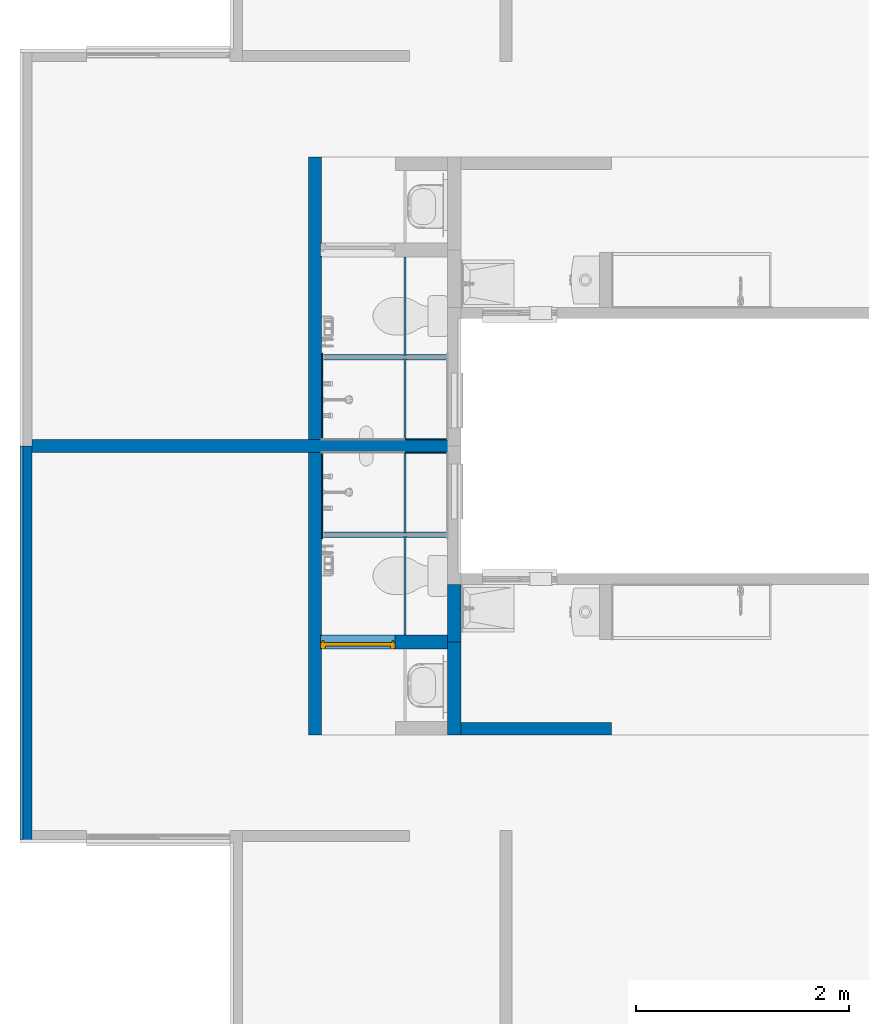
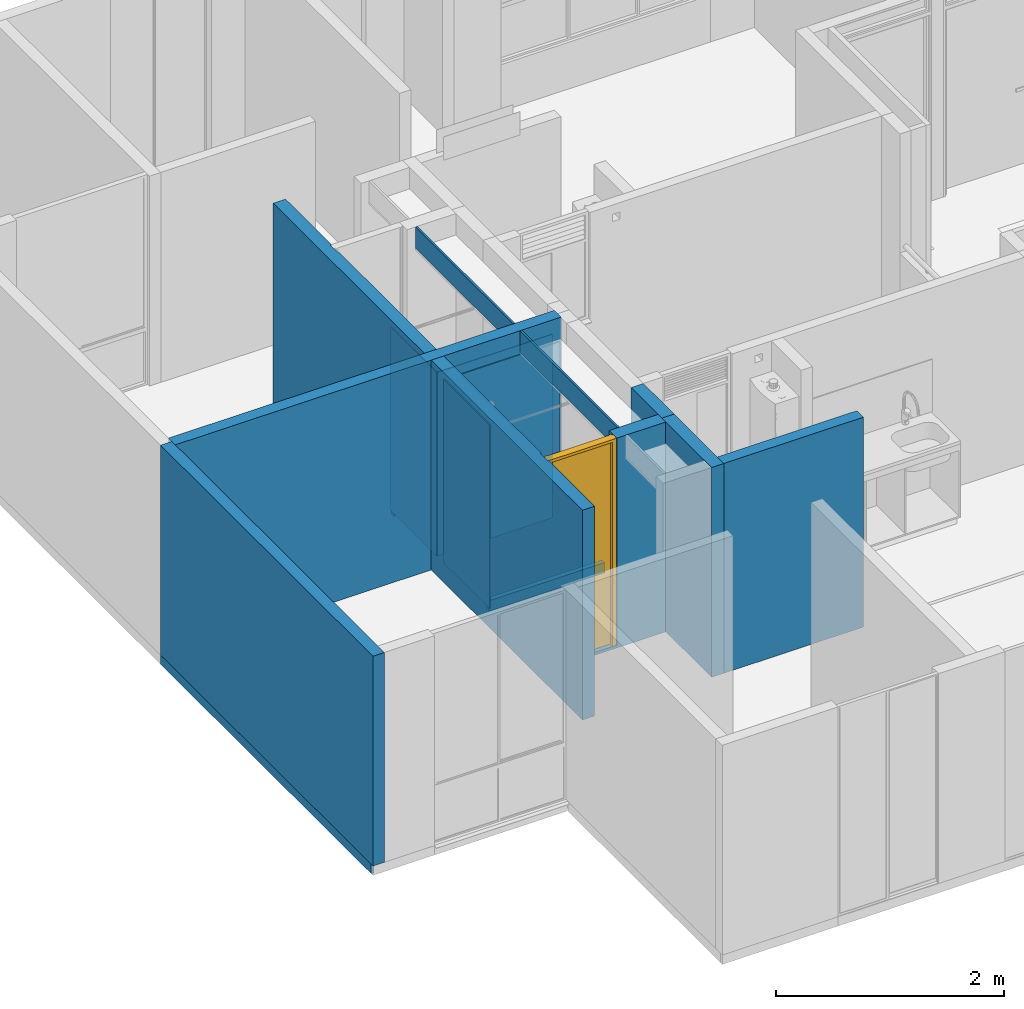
# One storey, part 7 of 48: 17 walls, 1 door, 3 openings.
"""IFC4 building model written with IfcOpenShell, lengths in metres."""

import ifcopenshell
import ifcopenshell.guid

model = None  # the IFC model being written
_history = None  # IfcOwnerHistory: only IFC2X3 demands one
_inside = {}  # id of a spatial element -> (the spatial element, [elements in it])
_under = {}  # id of a project, library or spatial element -> (it, [spatial elements below it])
_declared = {}  # id of a project -> (the project, [libraries it declares])
_typed = {}  # id of a type object -> (the type object, [elements of that type])
_made_of = {}  # id of a material, layer set ... -> (it, [elements and type objects made of it])


def new_model(schema):
    """Start an empty IFC model of exactly this schema.

    Asked for "IFC4X3", IfcOpenShell would pick the latest addendum, in which some entities
    have other attributes; the version numbers below select the first issue.
    IFC2X3 requires an IfcOwnerHistory on every rooted entity: one is made here for all.
    """
    global model, _history
    if schema == "IFC4X3":
        model = ifcopenshell.file(schema_version=(4, 3, 0, 0))
    else:
        model = ifcopenshell.file(schema=schema)
    _inside.clear()
    _under.clear()
    _declared.clear()
    _typed.clear()
    _made_of.clear()
    _history = None
    if model.schema == "IFC2X3":
        org = make("IfcOrganization", Name="unknown")
        user = make(
            "IfcPersonAndOrganization",
            ThePerson=make("IfcPerson", FamilyName="unknown"),
            TheOrganization=org,
        )
        app = make(
            "IfcApplication",
            ApplicationDeveloper=org,
            Version="unknown",
            ApplicationFullName="unknown",
            ApplicationIdentifier="unknown",
        )
        _history = make(
            "IfcOwnerHistory",
            OwningUser=user,
            OwningApplication=app,
            ChangeAction="ADDED",
            CreationDate=0,
        )
    return model


def make(cls, **values):
    """One entity of the class cls with the attributes given. An attribute that is None is left unset."""
    return model.create_entity(
        cls, **{name: value for name, value in values.items() if value is not None}
    )


def entity(cls, *values):
    """Any entity or typed value of the class cls, its attributes in the order of the schema. None: left unset."""
    e = model.create_entity(cls)
    for i, value in enumerate(values):
        if value is not None:
            e[i] = value
    return e


def rooted(cls, **values):
    """An entity with a GlobalId (a new one), such as an element, a storey or a relation."""
    return make(cls, GlobalId=ifcopenshell.guid.new(), OwnerHistory=_history, **values)


def si_unit(unit_type, name, prefix=None):
    """IfcSIUnit, for example si_unit("LENGTHUNIT", "METRE", prefix="MILLI")."""
    return make("IfcSIUnit", UnitType=unit_type, Prefix=prefix, Name=name)


def converted_unit(unit_type, name, factor, base, dimensions=None, offset=None):
    """IfcConversionBasedUnit, such as the inch: factor (a typed value) times the base unit."""
    return make(
        "IfcConversionBasedUnit"
        if offset is None
        else "IfcConversionBasedUnitWithOffset",
        ConversionOffset=offset,
        Dimensions=None
        if dimensions is None
        else entity("IfcDimensionalExponents", *dimensions),
        UnitType=unit_type,
        Name=name,
        ConversionFactor=make(
            "IfcMeasureWithUnit", ValueComponent=factor, UnitComponent=base
        ),
    )


def derived_unit(unit_type, elements):
    """IfcDerivedUnit: a product of units, each with its exponent."""
    return make(
        "IfcDerivedUnit",
        Elements=[
            make("IfcDerivedUnitElement", Unit=unit, Exponent=power)
            for unit, power in elements
        ],
        UnitType=unit_type,
    )


def assignment(units):
    """IfcUnitAssignment: the units of a project."""
    return None if units is None else make("IfcUnitAssignment", Units=units)


def point(xyz):
    """IfcCartesianPoint."""
    return None if xyz is None else make("IfcCartesianPoint", Coordinates=xyz)


def direction(xyz):
    """IfcDirection."""
    return None if xyz is None else make("IfcDirection", DirectionRatios=xyz)


def frame(location, z_axis=None, x_axis=None):
    """IfcAxis2Placement3D, a coordinate frame: its origin and axes. An axis left out is left unset."""
    return make(
        "IfcAxis2Placement3D",
        Location=point(location),
        Axis=direction(z_axis),
        RefDirection=direction(x_axis),
    )


def origin():
    """The frame at (0, 0, 0) with its axes left unset."""
    return frame((0.0, 0.0, 0.0))


def place(relative_to, where):
    """IfcLocalPlacement: puts the frame where relative to a parent placement (None: the world)."""
    return make(
        "IfcLocalPlacement", PlacementRelTo=relative_to, RelativePlacement=where
    )


def context(
    kind, dimensions, precision=None, world=None, true_north=None, identifier=None
):
    """IfcGeometricRepresentationContext, for example the 3D "Model" context."""
    return make(
        "IfcGeometricRepresentationContext",
        ContextIdentifier=identifier,
        ContextType=kind,
        CoordinateSpaceDimension=dimensions,
        Precision=precision,
        WorldCoordinateSystem=world,
        TrueNorth=true_north,
    )


def subcontext(parent, identifier, kind, view, scale=None):
    """IfcGeometricRepresentationSubContext, for example "Body" below "Model"."""
    return make(
        "IfcGeometricRepresentationSubContext",
        ContextIdentifier=identifier,
        ContextType=kind,
        ParentContext=parent,
        TargetScale=scale,
        TargetView=view,
    )


def project(units=None, contexts=None):
    """IfcProject with its units and contexts."""
    return rooted(
        "IfcProject",
        Name="project",
        RepresentationContexts=contexts,
        UnitsInContext=assignment(units),
    )


def spatial(cls, under=None, at=None, **own):
    """A site, building, storey or space (cls), placed at a placement, below another one or the project."""
    s = rooted(cls, ObjectPlacement=at, **own)
    if under is not None:
        _under.setdefault(under.id(), (under, []))[1].append(s)
    return s


def point_list(points):
    """IfcCartesianPointList2D or 3D."""
    cls = (
        "IfcCartesianPointList2D" if len(points[0]) == 2 else "IfcCartesianPointList3D"
    )
    return make(cls, CoordList=points)


def indexed_curve(points, segments=None, self_intersect=None):
    """IfcIndexedPolyCurve: lines and arcs through numbered points (the first is 1)."""
    return make(
        "IfcIndexedPolyCurve",
        Points=point_list(points),
        Segments=segments,
        SelfIntersect=self_intersect,
    )


def outline(outer, holes=None, kind="AREA"):
    """IfcArbitraryClosedProfileDef: a profile drawn as a closed curve; with holes, ...WithVoids."""
    if holes is None:
        return make("IfcArbitraryClosedProfileDef", ProfileType=kind, OuterCurve=outer)
    return make(
        "IfcArbitraryProfileDefWithVoids",
        ProfileType=kind,
        OuterCurve=outer,
        InnerCurves=holes,
    )


def extrude(swept, where, along, depth):
    """IfcExtrudedAreaSolid: the profile swept, set in the frame where, extruded along a direction by depth."""
    return make(
        "IfcExtrudedAreaSolid",
        SweptArea=swept,
        Position=where,
        ExtrudedDirection=direction(along),
        Depth=depth,
    )


def polygons(points, faces, closed=None, point_numbers=None):
    """IfcPolygonalFaceSet: a face is its outer loop, then its inner loops; points numbered from 1."""
    made = []
    for loops in faces:
        if len(loops) == 1:
            made.append(make("IfcIndexedPolygonalFace", CoordIndex=loops[0]))
        else:
            made.append(
                make(
                    "IfcIndexedPolygonalFaceWithVoids",
                    CoordIndex=loops[0],
                    InnerCoordIndices=loops[1:],
                )
            )
    return make(
        "IfcPolygonalFaceSet",
        Coordinates=point_list(points),
        Closed=closed,
        Faces=made,
        PnIndex=point_numbers,
    )


def shape(context_of_items, identifier, shape_type, items):
    """IfcShapeRepresentation: the items that make up one representation, for example the "Body"."""
    return make(
        "IfcShapeRepresentation",
        ContextOfItems=context_of_items,
        RepresentationIdentifier=identifier,
        RepresentationType=shape_type,
        Items=items,
    )


def source(mapping_origin, context_of_items, identifier, shape_type, items):
    """IfcRepresentationMap: a shape defined once, which mapped items show again and again."""
    return make(
        "IfcRepresentationMap",
        MappingOrigin=mapping_origin,
        MappedRepresentation=shape(context_of_items, identifier, shape_type, items),
    )


def transform(
    local_origin,
    x_axis=None,
    y_axis=None,
    z_axis=None,
    scale=None,
    scale2=None,
    scale3=None,
    uniform=True,
):
    """IfcCartesianTransformationOperator3D, or its non-uniform kind. x_axis, y_axis, z_axis: its Axis1, 2, 3."""
    if uniform:
        return make(
            "IfcCartesianTransformationOperator3D",
            Axis1=direction(x_axis),
            Axis2=direction(y_axis),
            LocalOrigin=point(local_origin),
            Scale=scale,
            Axis3=direction(z_axis),
        )
    return make(
        "IfcCartesianTransformationOperator3DnonUniform",
        Axis1=direction(x_axis),
        Axis2=direction(y_axis),
        LocalOrigin=point(local_origin),
        Scale=scale,
        Axis3=direction(z_axis),
        Scale2=scale2,
        Scale3=scale3,
    )


def mapped(mapping_source, mapping_target):
    """IfcMappedItem: shows the shape of a source again, moved by a transform."""
    return make(
        "IfcMappedItem", MappingSource=mapping_source, MappingTarget=mapping_target
    )


def material(Name=None, Category=None):
    """IfcMaterial."""
    return make("IfcMaterial", Name=Name, Category=Category)


def constituent(of_material, Name=None, Category=None, fraction=None):
    """IfcMaterialConstituent: one of the materials an element consists of."""
    return make(
        "IfcMaterialConstituent",
        Name=Name,
        Material=of_material,
        Fraction=fraction,
        Category=Category,
    )


def constituent_set(constituents=None, Name=None):
    """IfcMaterialConstituentSet."""
    return make(
        "IfcMaterialConstituentSet", Name=Name, MaterialConstituents=constituents
    )


def made_of(thing, what):
    """Note that an element or type object is made of a material, layer set ...; save() writes the relation."""
    if what is not None:
        _made_of.setdefault(what.id(), (what, []))[1].append(thing)
    return thing


def type_object(cls, material=None, **own):
    """A type object (cls), such as IfcWallType, which elements share."""
    return made_of(rooted(cls, **own), material)


def type_shapes(of_type, sources):
    """Give a type object the sources (RepresentationMaps) that its elements show as mapped items."""
    of_type.RepresentationMaps = sources


def element(
    cls,
    number,
    at=None,
    inside=None,
    cuts=None,
    type_object=None,
    material=None,
    context=None,
    identifier="Body",
    shape_type=None,
    held_by="IfcProductDefinitionShape",
    body=None,
    shapes=None,
    **own,
):
    """One element of the class cls, such as IfcWall. Its Tag is "e" and its number.

    at: its placement. inside: the storey or other place that contains it. cuts: it is an
    opening in that element (IfcRelVoidsElement). A single representation is given by context,
    identifier, shape_type and body (its items); several are given by shapes. held_by: the class
    of the entity that holds the representations. save() writes the other relations.
    """
    e = rooted(cls, Tag="e%d" % number, ObjectPlacement=at, **own)
    if body is not None:
        shapes = [shape(context, identifier, shape_type, body)]
    if shapes is not None:
        e.Representation = make(held_by, Representations=shapes)
    if inside is not None:
        _inside.setdefault(inside.id(), (inside, []))[1].append(e)
    if cuts is not None:
        rooted(
            "IfcRelVoidsElement", RelatingBuildingElement=cuts, RelatedOpeningElement=e
        )
    if type_object is not None:
        _typed.setdefault(type_object.id(), (type_object, []))[1].append(e)
    return made_of(e, material)


def fill(opening, filler):
    """IfcRelFillsElement: the door or window that sits in an opening."""
    return rooted(
        "IfcRelFillsElement",
        RelatingOpeningElement=opening,
        RelatedBuildingElement=filler,
    )


def aggregate(whole, parts):
    """IfcRelAggregates: a whole, such as a stair, and the parts it consists of."""
    return rooted("IfcRelAggregates", RelatingObject=whole, RelatedObjects=parts)


def save(model, path):
    """Write the relations noted so far, then the file.

    IfcRelAggregates (storeys below a building ...), IfcRelContainedInSpatialStructure (elements
    in a storey), IfcRelDefinesByType, IfcRelAssociatesMaterial and IfcRelDeclares: one each for
    every whole, place, type object, material and project.
    """
    for whole, parts in _under.values():
        aggregate(whole, parts)
    for where, things in _inside.values():
        rooted(
            "IfcRelContainedInSpatialStructure",
            RelatedElements=things,
            RelatingStructure=where,
        )
    for kind, things in _typed.values():
        rooted("IfcRelDefinesByType", RelatedObjects=things, RelatingType=kind)
    for what, things in _made_of.values():
        rooted("IfcRelAssociatesMaterial", RelatedObjects=things, RelatingMaterial=what)
    for by, libraries in _declared.values():
        rooted("IfcRelDeclares", RelatingContext=by, RelatedDefinitions=libraries)
    model.write(path)


model = new_model("IFC4")

# Units and contexts
model_context = context("Model", 3, precision=1e-05, world=origin(), true_north=direction((6.123031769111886e-17, 1.0)))
body_context = subcontext(model_context, "Body", "Model", "MODEL_VIEW")
ifc_project = project(units=[si_unit("LENGTHUNIT", "METRE"), si_unit("AREAUNIT", "SQUARE_METRE"), si_unit("VOLUMEUNIT", "CUBIC_METRE"), converted_unit("PLANEANGLEUNIT", "DEGREE", entity("IfcRatioMeasure", 0.017453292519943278), si_unit("PLANEANGLEUNIT", "RADIAN"), dimensions=[0, 0, 0, 0, 0, 0, 0]), si_unit("MASSUNIT", "GRAM", prefix="KILO"), derived_unit("MASSDENSITYUNIT", [(si_unit("MASSUNIT", "GRAM", prefix="KILO"), 1), (si_unit("LENGTHUNIT", "METRE"), -3)]), derived_unit("IONCONCENTRATIONUNIT", [(si_unit("MASSUNIT", "GRAM", prefix="KILO"), 1), (si_unit("LENGTHUNIT", "METRE"), -3)]), derived_unit("MOMENTOFINERTIAUNIT", [(si_unit("LENGTHUNIT", "METRE"), 4)]), si_unit("TIMEUNIT", "SECOND"), si_unit("FREQUENCYUNIT", "HERTZ"), si_unit("THERMODYNAMICTEMPERATUREUNIT", "DEGREE_CELSIUS"), derived_unit("THERMALTRANSMITTANCEUNIT", [(si_unit("MASSUNIT", "GRAM", prefix="KILO"), 1), (si_unit("THERMODYNAMICTEMPERATUREUNIT", "KELVIN"), -1), (si_unit("TIMEUNIT", "SECOND"), -3)]), derived_unit("THERMALCONDUCTANCEUNIT", [(si_unit("MASSUNIT", "GRAM", prefix="KILO"), 1), (si_unit("THERMODYNAMICTEMPERATUREUNIT", "KELVIN"), -1), (si_unit("TIMEUNIT", "SECOND"), -3), (si_unit("LENGTHUNIT", "METRE"), 1)]), derived_unit("VOLUMETRICFLOWRATEUNIT", [(si_unit("LENGTHUNIT", "METRE"), 3), (si_unit("TIMEUNIT", "SECOND"), -1)]), derived_unit("MASSFLOWRATEUNIT", [(si_unit("MASSUNIT", "GRAM", prefix="KILO"), 1), (si_unit("TIMEUNIT", "SECOND"), -1)]), derived_unit("ROTATIONALFREQUENCYUNIT", [(si_unit("TIMEUNIT", "SECOND"), -1)]), si_unit("ELECTRICCURRENTUNIT", "AMPERE"), si_unit("ELECTRICVOLTAGEUNIT", "VOLT"), si_unit("POWERUNIT", "WATT"), si_unit("FORCEUNIT", "NEWTON", prefix="KILO"), si_unit("ILLUMINANCEUNIT", "LUX"), si_unit("LUMINOUSFLUXUNIT", "LUMEN"), si_unit("LUMINOUSINTENSITYUNIT", "CANDELA"), derived_unit("USERDEFINED", [(si_unit("MASSUNIT", "GRAM", prefix="KILO"), -1), (si_unit("LENGTHUNIT", "METRE"), -2), (si_unit("TIMEUNIT", "SECOND"), 3), (si_unit("LUMINOUSFLUXUNIT", "LUMEN"), 1)]), derived_unit("USERDEFINED", [(si_unit("MASSUNIT", "GRAM", prefix="KILO"), 1), (si_unit("TIMEUNIT", "SECOND"), -3), (si_unit("LENGTHUNIT", "METRE"), 3), (si_unit("ELECTRICCURRENTUNIT", "AMPERE"), -2)]), derived_unit("SOUNDPOWERUNIT", [(si_unit("MASSUNIT", "GRAM", prefix="KILO"), 1), (si_unit("TIMEUNIT", "SECOND"), -3), (si_unit("LENGTHUNIT", "METRE"), 2)]), derived_unit("SOUNDPRESSUREUNIT", [(si_unit("MASSUNIT", "GRAM", prefix="KILO"), 1), (si_unit("LENGTHUNIT", "METRE"), -1), (si_unit("TIMEUNIT", "SECOND"), -2)]), derived_unit("LINEARVELOCITYUNIT", [(si_unit("LENGTHUNIT", "METRE"), 1), (si_unit("TIMEUNIT", "SECOND"), -1)]), si_unit("PRESSUREUNIT", "PASCAL"), derived_unit("USERDEFINED", [(si_unit("MASSUNIT", "GRAM", prefix="KILO"), 1), (si_unit("LENGTHUNIT", "METRE"), -2), (si_unit("TIMEUNIT", "SECOND"), -2)]), derived_unit("LINEARFORCEUNIT", [(si_unit("MASSUNIT", "GRAM", prefix="KILO"), 1), (si_unit("TIMEUNIT", "SECOND"), -2)]), derived_unit("PLANARFORCEUNIT", [(si_unit("MASSUNIT", "GRAM", prefix="KILO"), 1), (si_unit("LENGTHUNIT", "METRE"), -1), (si_unit("TIMEUNIT", "SECOND"), -2)]), derived_unit("SPECIFICHEATCAPACITYUNIT", [(si_unit("THERMODYNAMICTEMPERATUREUNIT", "KELVIN"), -1), (si_unit("LENGTHUNIT", "METRE"), 2), (si_unit("TIMEUNIT", "SECOND"), -2)]), derived_unit("HEATINGVALUEUNIT", [(si_unit("LENGTHUNIT", "METRE"), 2), (si_unit("TIMEUNIT", "SECOND"), -2)]), derived_unit("VAPORPERMEABILITYUNIT", [(si_unit("LENGTHUNIT", "METRE"), -1), (si_unit("TIMEUNIT", "SECOND"), 1)]), derived_unit("DYNAMICVISCOSITYUNIT", [(si_unit("MASSUNIT", "GRAM", prefix="KILO"), 1), (si_unit("TIMEUNIT", "SECOND"), -1), (si_unit("LENGTHUNIT", "METRE"), -1)]), derived_unit("THERMALEXPANSIONCOEFFICIENTUNIT", [(si_unit("THERMODYNAMICTEMPERATUREUNIT", "KELVIN"), -1)]), derived_unit("MODULUSOFELASTICITYUNIT", [(si_unit("MASSUNIT", "GRAM", prefix="KILO"), 1), (si_unit("LENGTHUNIT", "METRE"), -1), (si_unit("TIMEUNIT", "SECOND"), -2)]), derived_unit("ISOTHERMALMOISTURECAPACITYUNIT", [(si_unit("LENGTHUNIT", "METRE"), 3), (si_unit("MASSUNIT", "GRAM", prefix="KILO"), -1)]), derived_unit("MOISTUREDIFFUSIVITYUNIT", [(si_unit("TIMEUNIT", "SECOND"), -1), (si_unit("LENGTHUNIT", "METRE"), 2)])], contexts=[model_context])

# Site, building, storey
site_placement = place(None, origin())
site = spatial("IfcSite", under=ifc_project, at=site_placement, Name="Default", CompositionType="ELEMENT")
building_placement = place(site_placement, origin())
building = spatial("IfcBuilding", under=site, at=building_placement, CompositionType="ELEMENT")
storey_placement = place(building_placement, frame((0.0, 0.0, 7.050000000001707)))
storey = spatial("IfcBuildingStorey", under=building, at=storey_placement, Name="Nivel 4", CompositionType="ELEMENT", Elevation=7.050000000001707)

# Walls
ifc_material_1 = material(Name="Concreto (Aire)", Category="Materials")
wall_type_1 = type_object("IfcWallType", Name="Basic Wall:B2010 - 0.12m - Muro interior en concreto", PredefinedType="STANDARD")
wall_1_placement = place(storey_placement, frame((0.057499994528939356, -6.425000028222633, 0.0)))
element("IfcWall", 1, at=wall_1_placement, inside=storey, type_object=wall_type_1, material=ifc_material_1, Name="Basic Wall:B2010 - 0.12m - Muro interior en concreto", ObjectType="Basic Wall:B2010 - 0.12m - Muro interior en concreto", PredefinedType="NOTDEFINED", context=body_context, shape_type="SweptSolid", body=[
    extrude(outline(indexed_curve([(3.915, 0.06000000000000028), (-2.183027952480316e-18, 0.060000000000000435), (2.183027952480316e-18, -0.060000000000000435), (3.915, -0.06000000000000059), (3.915, 0.06000000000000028)], self_intersect=False)), origin(), (0.0, 0.0, 1.0), 2.2500000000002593),
])
ifc_material_2 = material(Name="Ladrillo claro (Aire)", Category="Materials")
wall_type_2 = type_object("IfcWallType", Name="Basic Wall:B2010 - 0.115m - Muro exterior en mampostería - Ladrillo", PredefinedType="STANDARD")
wall_2_placement = place(storey_placement, frame((0.0, -10.15500002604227, 0.0), z_axis=(0.0, 0.0, 1.0), x_axis=(0.0, 1.0, 0.0)))
element("IfcWall", 2, at=wall_2_placement, inside=storey, type_object=wall_type_2, material=ifc_material_2, Name="Basic Wall:B2010 - 0.115m - Muro exterior en mampostería - Ladrillo", ObjectType="Basic Wall:B2010 - 0.115m - Muro exterior en mampostería - Ladrillo", PredefinedType="NOTDEFINED", context=body_context, shape_type="SweptSolid", body=[
    extrude(outline(indexed_curve([(3.7299999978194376, 0.0575), (-4.594741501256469e-16, 0.0575), (4.594741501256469e-16, -0.0575), (3.7299999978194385, -0.0575), (3.7299999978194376, 0.0575)], self_intersect=False)), origin(), (0.0, 0.0, 1.0), 2.2500000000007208),
])
wall_type_3 = type_object("IfcWallType", Name="Basic Wall:B2010 - 0.115m - Muro interior en mampostería - Ladrillo", PredefinedType="STANDARD")
wall_3_placement = place(storey_placement, frame((4.087499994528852, -9.082499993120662, 0.0)))
element("IfcWall", 3, at=wall_3_placement, inside=storey, type_object=wall_type_3, material=ifc_material_2, Name="Basic Wall:B2010 - 0.115m - Muro interior en mampostería - Ladrillo", ObjectType="Basic Wall:B2010 - 0.115m - Muro interior en mampostería - Ladrillo", PredefinedType="NOTDEFINED", context=body_context, shape_type="SweptSolid", body=[
    extrude(outline(indexed_curve([(1.414999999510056, 0.05749999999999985), (-1.7283953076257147e-16, 0.057499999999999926), (1.7283953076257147e-16, -0.057499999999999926), (1.4149999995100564, -0.0575), (1.414999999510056, 0.05749999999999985)], self_intersect=False)), origin(), (0.0, 0.0, 1.0), 2.2499999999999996),
])

# Wall, opening
ifc_material_3 = material(Name="Pañete", Category="Materials")
ifc_constituent_1 = constituent(ifc_material_3, Name="Pañete", Category="Materials")
ifc_constituent_2 = constituent(ifc_material_2, Name="Ladrillo claro (Aire)", Category="Materials")
ifc_constituent_set_1 = constituent_set(constituents=[ifc_constituent_1, ifc_constituent_2], Name="Basic Wall:B2010 - 0.115m - Muro interior en mampostería - Ladrillo + Pañete")
wall_type_4 = type_object("IfcWallType", Name="Basic Wall:B2010 - 0.115m - Muro interior en mampostería - Ladrillo + Pañete", PredefinedType="STANDARD", material=ifc_constituent_set_1)
wall_4_placement = place(storey_placement, frame((2.7150010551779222, -3.7100000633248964, 0.0), z_axis=(0.0, 0.0, 1.0), x_axis=(0.0, -1.0, 0.0)))
wall_4 = element("IfcWall", 4, at=wall_4_placement, inside=storey, type_object=wall_type_4, material=ifc_constituent_set_1, Name="Basic Wall:B2010 - 0.115m - Muro interior en mampostería - Ladrillo + Pañete", ObjectType="Basic Wall:B2010 - 0.115m - Muro interior en mampostería - Ladrillo + Pañete", PredefinedType="NOTDEFINED", context=body_context, shape_type="SweptSolid", body=[
    extrude(outline(indexed_curve([(-1.1325000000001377, -1.0999999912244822), (1.1174999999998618, -1.0999999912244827), (1.1175000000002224, -0.294999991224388), (-1.1024999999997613, -0.29499999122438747), (-1.1024999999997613, -0.15999999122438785), (1.1174999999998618, -0.1599999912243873), (1.1174999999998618, 1.5549999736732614), (-1.1325000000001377, 1.5549999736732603), (-1.1325000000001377, -1.0999999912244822)], self_intersect=False)), frame((1.0999999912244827, 0.0524999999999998, 1.1325000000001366), z_axis=(0.0, 1.0, 0.0), x_axis=(0.0, 0.0, 1.0)), (0.0, 0.0, 1.0), 0.009999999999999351),
    extrude(outline(indexed_curve([(-0.05750000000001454, -1.3274999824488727), (0.05749999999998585, -1.3274999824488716), (0.05750000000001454, 1.327499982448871), (-0.057499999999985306, 1.3274999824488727), (-0.05750000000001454, -1.3274999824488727)], self_intersect=False)), frame((1.3274999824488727, -0.005000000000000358, 0.0), z_axis=(0.0, 0.0, 1.0), x_axis=(0.0, 1.0, 0.0)), (0.0, 0.0, 1.0), 2.2499999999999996),
])
opening_1_placement = place(wall_4_placement, origin())
element("IfcOpeningElement", 5, at=opening_1_placement, cuts=wall_4, Name="Basic Wall:B2010 - 0.115m - Muro interior en mampostería - Ladrillo + Pañete", PredefinedType="OPENING", context=body_context, shape_type="SweptSolid", body=[
    extrude(outline(indexed_curve([(-0.06749999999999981, -1.1099999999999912), (0.06750000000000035, -1.1099999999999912), (0.06750000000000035, 1.1099999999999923), (-0.06749999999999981, 1.1099999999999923), (-0.06749999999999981, -1.1099999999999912)], self_intersect=False)), frame((0.8725000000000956, 0.05249999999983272, 1.1400000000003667), z_axis=(0.0, 1.0, 0.0), x_axis=(-1.0, 0.0, 0.0)), (0.0, 0.0, 1.0), 0.7000000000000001),
])

wall_5_placement = place(storey_placement, frame((2.715001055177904, -9.139999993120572, 0.0), z_axis=(0.0, 0.0, 1.0), x_axis=(0.0, 1.0, 0.0)))
wall_5 = element("IfcWall", 6, at=wall_5_placement, inside=storey, type_object=wall_type_4, material=ifc_constituent_set_1, Name="Basic Wall:B2010 - 0.115m - Muro interior en mampostería - Ladrillo + Pañete", ObjectType="Basic Wall:B2010 - 0.115m - Muro interior en mampostería - Ladrillo + Pañete", PredefinedType="NOTDEFINED", context=body_context, shape_type="SweptSolid", body=[
    extrude(outline(indexed_curve([(-1.1325000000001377, -1.5549999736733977), (1.1174999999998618, -1.5549999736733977), (1.1175000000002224, 0.1599999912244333), (-1.1024999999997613, 0.15999999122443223), (-1.1024999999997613, 0.29499999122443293), (1.1174999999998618, 0.2949999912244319), (1.1174999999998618, 1.0999999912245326), (-1.1325000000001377, 1.0999999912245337), (-1.1325000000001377, -1.5549999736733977)], self_intersect=False)), frame((1.0999999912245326, -0.05249999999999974, 1.1325000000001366), z_axis=(0.0, -1.0, 0.0), x_axis=(0.0, 0.0, 1.0)), (0.0, 0.0, 1.0), 0.009999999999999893),
    extrude(outline(indexed_curve([(-0.05750000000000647, -1.3274999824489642), (0.057499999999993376, -1.3274999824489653), (0.05750000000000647, 1.3274999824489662), (-0.057499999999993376, 1.3274999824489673), (-0.05750000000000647, -1.3274999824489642)], self_intersect=False)), frame((1.3274999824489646, 0.004999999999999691, 0.0), z_axis=(0.0, 0.0, 1.0), x_axis=(0.0, -1.0, 0.0)), (0.0, 0.0, 1.0), 2.2499999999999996),
])
opening_2_placement = place(wall_5_placement, origin())
element("IfcOpeningElement", 7, at=opening_2_placement, cuts=wall_5, Name="Basic Wall:B2010 - 0.115m - Muro interior en mampostería - Ladrillo + Pañete", PredefinedType="OPENING", context=body_context, shape_type="SweptSolid", body=[
    extrude(outline(indexed_curve([(-0.06749999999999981, -1.1099999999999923), (0.06749999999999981, -1.1099999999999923), (0.06749999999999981, 1.1099999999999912), (-0.06749999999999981, 1.1099999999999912), (-0.06749999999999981, -1.1099999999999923)], self_intersect=False)), frame((0.8725000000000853, -0.7524999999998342, 1.1400000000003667), z_axis=(0.0, 1.0, 0.0), x_axis=(1.0, 0.0, 0.0)), (0.0, 0.0, 1.0), 0.7000000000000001),
])

# Wall, opening, door
ifc_constituent_3 = constituent(ifc_material_3, Name="Pañete", Category="Materials")
ifc_material_4 = material(Name="LADRILLO CLARO", Category="Materials")
ifc_constituent_4 = constituent(ifc_material_4, Name="LADRILLO CLARO", Category="Materials")
ifc_constituent_5 = constituent(ifc_material_3, Name="Pañete (2)", Category="Materials")
ifc_constituent_set_2 = constituent_set(constituents=[ifc_constituent_3, ifc_constituent_4, ifc_constituent_5], Name="Basic Wall:B2010 - 0.115m - MI  mampostería no estructural - Pañete + Ladrillo + Pañete")
wall_type_5 = type_object("IfcWallType", Name="Basic Wall:B2010 - 0.115m - MI  mampostería no estructural - Pañete + Ladrillo + Pañete", PredefinedType="STANDARD", material=ifc_constituent_set_2)
wall_6_placement = place(storey_placement, frame((3.9624999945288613, -8.26749999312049, 0.0), z_axis=(0.0, 0.0, 1.0), x_axis=(-1.0, 0.0, 0.0)))
wall_6 = element("IfcWall", 8, at=wall_6_placement, inside=storey, type_object=wall_type_5, material=ifc_constituent_set_2, Name="Basic Wall:B2010 - 0.115m - MI  mampostería no estructural - Pañete + Ladrillo + Pañete", ObjectType="Basic Wall:B2010 - 0.115m - MI  mampostería no estructural - Pañete + Ladrillo + Pañete", PredefinedType="NOTDEFINED", context=body_context, shape_type="SweptSolid", body=[
    extrude(outline(indexed_curve([(-0.7600000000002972, -0.6249996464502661), (-0.729999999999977, -0.6249996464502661), (-0.729999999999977, 0.06500035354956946), (1.4900000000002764, 0.06500035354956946), (1.4900000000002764, 0.559999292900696), (-0.7600000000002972, 0.5599992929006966), (-0.7600000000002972, -0.6249996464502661)], self_intersect=False)), frame((0.5599992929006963, -0.057499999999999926, 0.7600000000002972), z_axis=(0.0, -1.0, 0.0), x_axis=(0.0, 0.0, 1.0)), (0.0, 0.0, 1.0), 0.009999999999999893),
    extrude(outline(indexed_curve([(-1.1325000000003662, -0.6649994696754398), (-1.102500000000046, -0.6649994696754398), (-1.102500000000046, 0.02500053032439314), (1.1175000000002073, 0.02500053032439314), (1.1175000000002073, 0.10999946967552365), (1.1175000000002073, 0.12999946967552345), (1.1175000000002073, 0.5199994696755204), (-1.1325000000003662, 0.5199994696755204), (-1.1325000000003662, -0.6649994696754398)], self_intersect=False)), frame((0.5199994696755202, 0.06749999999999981, 1.1325000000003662), z_axis=(0.0, -1.0, 0.0), x_axis=(0.0, 0.0, 1.0)), (0.0, 0.0, 1.0), 0.009999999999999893),
    extrude(outline(indexed_curve([(-0.7600000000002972, -0.6316663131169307), (-0.729999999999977, -0.6316663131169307), (-0.7299999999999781, 0.06833368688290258), (1.4900000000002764, 0.06833368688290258), (1.4900000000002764, 0.5633326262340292), (-0.7600000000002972, 0.5633326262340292), (-0.7600000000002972, -0.6316663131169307)], self_intersect=False)), frame((0.5633326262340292, 0.057499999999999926, 0.7600000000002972), z_axis=(0.0, -1.0, 0.0), x_axis=(0.0, 0.0, 1.0)), (0.0, 0.0, 1.0), 0.11499999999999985),
])
opening_3_placement = place(wall_6_placement, frame((1.1949989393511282, 0.06749999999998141, 0.029999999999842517)))
opening_3 = element("IfcOpeningElement", 9, at=opening_3_placement, cuts=wall_6, Name="C1030 - Puerta batiente - Madera+Aluminio:C1030 - 0.70 x 2.22 - Puerta batiente - Madera+ Metal:1", PredefinedType="OPENING", context=body_context, shape_type="SweptSolid", body=[
    extrude(outline(indexed_curve([(1.438182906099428e-16, 0.7000000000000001), (1.438182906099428e-16, 0.0), (2.219999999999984, 0.0), (2.2199999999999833, 0.7000000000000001), (1.438182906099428e-16, 0.7000000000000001)], self_intersect=False)), frame((0.0, 0.0, 0.0), z_axis=(0.0, -1.0, 0.0), x_axis=(0.0, 0.0, 1.0)), (0.0, 0.0, 1.0), 0.13499999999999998),
])
ifc_material_5 = material(Name="<Unnamed>")
door_type = type_object("IfcDoorType", Name="C1030 - Puerta batiente - Madera+Aluminio:C1030 - 0.70 x 2.22 - Puerta batiente - Madera+ Metal", OperationType="SINGLE_SWING_LEFT", PredefinedType="DOOR", material=ifc_material_5)
shared_shape = source(origin(), body_context, "Body", "Tessellation", [
    polygons([(0.6699999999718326, 0.06499999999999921, 0.009880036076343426), (0.6699999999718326, 0.0324999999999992, 0.009880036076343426), (0.030000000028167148, 0.0324999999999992, 0.009880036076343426), (0.030000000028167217, 0.06499999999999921, 0.009880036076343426), (0.6699999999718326, 0.06499999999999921, 2.2050000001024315), (0.6699999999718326, 0.0324999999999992, 2.2050000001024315), (0.030000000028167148, 0.0324999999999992, 2.2050000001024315), (0.030000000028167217, 0.06499999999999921, 2.2050000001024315)], [[[1, 2, 3, 4]], [[5, 6, 2, 1]], [[6, 7, 3, 2]], [[7, 8, 4, 3]], [[8, 5, 1, 4]], [[5, 8, 7, 6]]], closed=True),
    polygons([(0.6849999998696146, 0.0649999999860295, 0.0), (0.7, 0.0649999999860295, 0.0), (0.7, 0.0074999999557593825, 0.0), (0.6849999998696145, 0.007499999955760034, 0.0), (0.6849999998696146, -5.075939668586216e-17, 0.0), (0.6549999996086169, -1.6919798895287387e-17, 0.0), (0.6549999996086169, 0.04000000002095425, 0.0), (0.6699999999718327, 0.04000000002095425, 0.0), (0.6699999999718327, 0.07999999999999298, 0.0), (0.6849999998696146, 0.07999999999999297, 0.0), (0.7, 0.0074999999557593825, 2.2199999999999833), (0.6849999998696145, 0.007499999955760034, 2.2199999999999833), (0.6849999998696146, 0.0649999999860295, 2.2199999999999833), (0.7, 0.0649999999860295, 2.2199999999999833), (0.015000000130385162, 0.06499999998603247, 0.0), (0.015000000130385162, 0.07999999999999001, 0.0), (0.030000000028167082, 0.07999999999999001, 0.0), (0.030000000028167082, 0.04000000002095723, 0.0), (0.04500000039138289, 0.04000000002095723, 0.0), (0.04500000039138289, 0.0, 0.0), (0.01500000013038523, 0.0, 0.0), (0.015000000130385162, 0.007499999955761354, 0.0), (0.0, 0.007499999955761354, 0.0), (0.0, 0.06499999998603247, 0.0), (0.0, 0.06499999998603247, 2.2199999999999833), (0.015000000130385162, 0.06499999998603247, 2.2199999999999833), (0.015000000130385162, 0.007499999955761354, 2.2199999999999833), (0.0, 0.007499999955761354, 2.2199999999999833), (0.04500000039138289, 0.04000000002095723, 2.2050000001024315), (0.04500000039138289, 0.03250000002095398, 2.2050000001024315), (0.04500000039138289, 0.03250000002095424, 2.189999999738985), (0.04500000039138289, 0.0, 2.189999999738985), (0.6549999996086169, -1.6919798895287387e-17, 2.189999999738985), (0.6549999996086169, 0.032500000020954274, 2.189999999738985), (0.6549999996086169, 0.03250000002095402, 2.2050000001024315), (0.6549999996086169, 0.04000000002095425, 2.2050000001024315), (0.030000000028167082, 0.07999999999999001, 2.2199999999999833), (0.030000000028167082, 0.07249999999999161, 2.2199999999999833), (0.030000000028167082, 0.07249999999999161, 2.2050000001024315), (0.030000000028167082, 0.04000000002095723, 2.2050000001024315), (0.6699999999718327, 0.04000000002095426, 2.2050000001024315), (0.6699999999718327, 0.07249999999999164, 2.2050000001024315), (0.6699999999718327, 0.07249999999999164, 2.2199999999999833), (0.6699999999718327, 0.07999999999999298, 2.2199999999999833), (0.015000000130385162, 0.07999999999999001, 2.2199999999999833), (0.6849999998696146, -5.075939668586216e-17, 2.2199999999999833), (0.01500000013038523, 0.0, 2.2199999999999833), (0.6849999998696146, 0.07999999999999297, 2.2199999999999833)], [[[1, 2, 3, 4, 5, 6, 7, 8, 9, 10]], [[11, 12, 4, 3]], [[13, 14, 2, 1]], [[15, 16, 17, 18, 19, 20, 21, 22, 23, 24]], [[25, 26, 15, 24]], [[27, 28, 23, 22]], [[20, 19, 29, 30, 31, 32]], [[7, 6, 33, 34, 35, 36]], [[18, 17, 37, 38, 39, 40]], [[9, 8, 41, 42, 43, 44]], [[28, 25, 24, 23]], [[14, 11, 3, 2]], [[26, 45, 16, 15]], [[45, 37, 17, 16]], [[19, 18, 40, 29]], [[21, 20, 32, 33, 6, 5, 46, 47]], [[47, 27, 22, 21]], [[12, 46, 5, 4]], [[48, 13, 1, 10]], [[26, 25, 28, 27, 47, 46, 12, 11, 14, 13, 48, 44, 43, 38, 37, 45]], [[39, 42, 41, 36, 35, 30, 29, 40]], [[33, 32, 31, 34]], [[8, 7, 36, 41]], [[44, 48, 10, 9]], [[34, 31, 30, 35]], [[42, 39, 38, 43]]], closed=True),
])
type_shapes(door_type, [shared_shape])
door_placement = place(opening_3_placement, frame((0.0, 0.0, 0.0), z_axis=(0.0, 0.0, 1.0), x_axis=(-1.0, 0.0, 0.0)))
door = element("IfcDoor", 10, at=door_placement, inside=storey, type_object=door_type, material=ifc_material_5, Name="C1030 - Puerta batiente - Madera+Aluminio:C1030 - 0.70 x 2.22 - Puerta batiente - Madera+ Metal", ObjectType="C1030 - Puerta batiente - Madera+Aluminio:C1030 - 0.70 x 2.22 - Puerta batiente - Madera+ Metal", OperationType="NOTDEFINED", OverallHeight=2.2199999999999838, OverallWidth=0.7000000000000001, PredefinedType="DOOR", context=body_context, shape_type="MappedRepresentation", body=[
    mapped(shared_shape, transform((0.0, 0.0, 0.0), scale=1.0)),
])
fill(opening_3, door)

# Walls
ifc_material_6 = material(Name="Pañete, estuco y pintura", Category="Materials")
ifc_constituent_6 = constituent(ifc_material_6, Name="Pañete, estuco y pintura", Category="Materials")
ifc_constituent_7 = constituent(ifc_material_2, Name="Ladrillo claro (Aire)", Category="Materials")
ifc_constituent_set_3 = constituent_set(constituents=[ifc_constituent_6, ifc_constituent_7], Name="Basic Wall:B2010 - 0.115m - Muro interior en mampostería - Ladrillo + Pañete+ estuco+ pintura")
wall_type_6 = type_object("IfcWallType", Name="Basic Wall:B2010 - 0.115m - Muro interior en mampostería - Ladrillo + Pañete+ estuco+ pintura", PredefinedType="STANDARD", material=ifc_constituent_set_3)
wall_7_placement = place(storey_placement, frame((4.024999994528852, -9.13999999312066, 0.0), z_axis=(0.0, 0.0, 1.0), x_axis=(0.0, 1.0, 0.0)))
element("IfcWall", 11, at=wall_7_placement, inside=storey, type_object=wall_type_6, material=ifc_constituent_set_3, Name="Basic Wall:B2010 - 0.115m - Muro interior en mampostería - Ladrillo + Pañete+ estuco+ pintura", ObjectType="Basic Wall:B2010 - 0.115m - Muro interior en mampostería - Ladrillo + Pañete+ estuco+ pintura", PredefinedType="NOTDEFINED", context=body_context, shape_type="SweptSolid", body=[
    extrude(outline(indexed_curve([(-0.3591666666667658, -0.003333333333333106), (0.32083333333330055, -0.0033333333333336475), (0.44583333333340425, -0.003333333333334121), (0.4458333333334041, 0.006666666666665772), (-0.4266666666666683, 0.006666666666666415), (-0.42666666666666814, -0.0033333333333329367), (-0.3591666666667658, -0.003333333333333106)], self_intersect=False)), frame((0.44583333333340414, 0.059166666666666, 0.0), z_axis=(0.0, 0.0, 1.0), x_axis=(-1.0, 0.0, 0.0)), (0.0, 0.0, 1.0), 2.2499999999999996),
    extrude(outline(indexed_curve([(-0.25700000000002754, -0.046000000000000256), (0.5005000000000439, -0.046000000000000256), (0.5005000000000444, 0.06900000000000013), (-0.372000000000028, 0.0690000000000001), (-0.37200000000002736, -0.045999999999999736), (-0.25700000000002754, -0.046000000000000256)], self_intersect=False)), frame((0.37200000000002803, -0.01650000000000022, 0.0)), (0.0, 0.0, 1.0), 2.2499999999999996),
])
wall_8_placement = place(storey_placement, frame((4.024999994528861, -8.267499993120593, 0.0), z_axis=(0.0, 0.0, 1.0), x_axis=(0.0, 1.0, 0.0)))
element("IfcWall", 12, at=wall_8_placement, inside=storey, type_object=wall_type_6, material=ifc_constituent_set_3, Name="Basic Wall:B2010 - 0.115m - Muro interior en mampostería - Ladrillo + Pañete+ estuco+ pintura", ObjectType="Basic Wall:B2010 - 0.115m - Muro interior en mampostería - Ladrillo + Pañete+ estuco+ pintura", PredefinedType="NOTDEFINED", context=body_context, shape_type="SweptSolid", body=[
    extrude(outline(indexed_curve([(0.16280569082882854, -0.004000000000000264), (0.23030569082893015, -0.004000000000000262), (0.23030569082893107, 0.0059999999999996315), (-0.3117085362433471, 0.00599999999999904), (-0.31170853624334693, -0.004000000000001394), (0.16280569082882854, -0.004000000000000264)], self_intersect=False)), frame((0.23030569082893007, 0.058499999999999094, 0.0), z_axis=(0.0, 0.0, 1.0), x_axis=(-1.0, 0.0, 0.0)), (0.0, 0.0, 1.0), 2.2499999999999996),
    extrude(outline(indexed_curve([(-0.12467143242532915, -0.03833333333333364), (-0.0906714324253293, -0.03833333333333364), (0.32484282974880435, -0.03833333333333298), (0.3248428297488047, 0.07666666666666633), (-0.21717139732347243, 0.07666666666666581), (-0.21717139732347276, -0.03833333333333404), (-0.12467143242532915, -0.03833333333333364)], self_intersect=False)), frame((0.2171713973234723, -0.024166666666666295, 0.0)), (0.0, 0.0, 1.0), 2.2499999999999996),
])
ifc_material_7 = material(Name="Ceramica 0.25m x 0.35m", Category="Materials")
wall_type_7 = type_object("IfcWallType", Name="Basic Wall:C2010 - 0.25 x 0.35 - Enchape cerámico", PredefinedType="STANDARD")
wall_9_placement = place(storey_placement, frame((2.7825010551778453, -6.365000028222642, 0.02999999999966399), z_axis=(0.0, 0.0, 1.0), x_axis=(0.0, 1.0, 0.0)))
element("IfcWall", 13, at=wall_9_placement, inside=storey, type_object=wall_type_7, material=ifc_material_7, Name="Basic Wall:C2010 - 0.25 x 0.35 - Enchape cerámico", ObjectType="Basic Wall:C2010 - 0.25 x 0.35 - Enchape cerámico", PredefinedType="NOTDEFINED", context=body_context, shape_type="SweptSolid", body=[
    extrude(outline(indexed_curve([(0.8099999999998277, 0.00500000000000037), (-3.2692676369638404e-17, 0.004999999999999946), (3.2692676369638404e-17, -0.004999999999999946), (0.8099999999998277, -0.004999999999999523), (0.8099999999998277, 0.00500000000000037)], self_intersect=False)), origin(), (0.0, 0.0, 1.0), 1.9700000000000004),
])
wall_10_placement = place(storey_placement, frame((2.787501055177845, -6.360000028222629, 0.02999999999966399)))
element("IfcWall", 14, at=wall_10_placement, inside=storey, type_object=wall_type_7, material=ifc_material_7, Name="Basic Wall:C2010 - 0.25 x 0.35 - Enchape cerámico", ObjectType="Basic Wall:C2010 - 0.25 x 0.35 - Enchape cerámico", PredefinedType="NOTDEFINED", context=body_context, shape_type="SweptSolid", body=[
    extrude(outline(indexed_curve([(1.1649989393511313, 0.004999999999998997), (-2.3810892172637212e-17, 0.004999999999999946), (2.3810892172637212e-17, -0.004999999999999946), (1.1649989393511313, -0.005000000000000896), (1.1649989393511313, 0.004999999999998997)], self_intersect=False)), origin(), (0.0, 0.0, 1.0), 1.9700000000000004),
])
wall_11_placement = place(storey_placement, frame((2.782501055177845, -6.485000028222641, 0.02999999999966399), z_axis=(0.0, 0.0, 1.0), x_axis=(0.0, -1.0, 0.0)))
element("IfcWall", 15, at=wall_11_placement, inside=storey, type_object=wall_type_7, material=ifc_material_7, Name="Basic Wall:C2010 - 0.25 x 0.35 - Enchape cerámico", ObjectType="Basic Wall:C2010 - 0.25 x 0.35 - Enchape cerámico", PredefinedType="NOTDEFINED", context=body_context, shape_type="SweptSolid", body=[
    extrude(outline(indexed_curve([(0.8100000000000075, 0.004999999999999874), (4.468811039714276e-19, 0.004999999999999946), (-4.468811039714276e-19, -0.004999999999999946), (0.8100000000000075, -0.005000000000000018), (0.8100000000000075, 0.004999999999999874)], self_intersect=False)), origin(), (0.0, 0.0, 1.0), 1.9700000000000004),
])
wall_12_placement = place(storey_placement, frame((2.7875010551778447, -6.490000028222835, 0.02999999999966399)))
element("IfcWall", 16, at=wall_12_placement, inside=storey, type_object=wall_type_7, material=ifc_material_7, Name="Basic Wall:C2010 - 0.25 x 0.35 - Enchape cerámico", ObjectType="Basic Wall:C2010 - 0.25 x 0.35 - Enchape cerámico", PredefinedType="NOTDEFINED", context=body_context, shape_type="SweptSolid", body=[
    extrude(outline(indexed_curve([(1.1649989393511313, 0.004999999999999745), (-8.43490309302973e-18, 0.004999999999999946), (8.43490309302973e-18, -0.004999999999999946), (1.1649989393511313, -0.0050000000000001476), (1.1649989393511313, 0.004999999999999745)], self_intersect=False)), origin(), (0.0, 0.0, 1.0), 1.9700000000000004),
])
ifc_material_8 = material(Name="0 muro divisorio", Category="Materials")
wall_type_8 = type_object("IfcWallType", Name="Basic Wall:B2010 - 0.05m - Poyo para duchas - Concreto", PredefinedType="STANDARD")
wall_13_placement = place(storey_placement, frame((2.777501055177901, -5.590000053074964, 0.0)))
element("IfcWall", 17, at=wall_13_placement, inside=storey, type_object=wall_type_8, material=ifc_material_8, Name="Basic Wall:B2010 - 0.05m - Poyo para duchas - Concreto", ObjectType="Basic Wall:B2010 - 0.05m - Poyo para duchas - Concreto", PredefinedType="NOTDEFINED", context=body_context, shape_type="SweptSolid", body=[
    extrude(outline(indexed_curve([(1.1749989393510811, 0.02499999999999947), (7.46625923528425e-17, 0.02499999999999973), (-7.46625923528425e-17, -0.02499999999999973), (1.1749989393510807, -0.024999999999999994), (1.1749989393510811, 0.02499999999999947)], self_intersect=False)), origin(), (0.0, 0.0, 1.0), 0.11000000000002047),
])
wall_14_placement = place(storey_placement, frame((2.777501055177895, -7.260000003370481, 0.0)))
element("IfcWall", 18, at=wall_14_placement, inside=storey, type_object=wall_type_8, material=ifc_material_8, Name="Basic Wall:B2010 - 0.05m - Poyo para duchas - Concreto", ObjectType="Basic Wall:B2010 - 0.05m - Poyo para duchas - Concreto", PredefinedType="NOTDEFINED", context=body_context, shape_type="SweptSolid", body=[
    extrude(outline(indexed_curve([(1.1749989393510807, 0.025000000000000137), (-7.772420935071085e-17, 0.02499999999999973), (7.772420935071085e-17, -0.02499999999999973), (1.1749989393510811, -0.024999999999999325), (1.1749989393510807, 0.025000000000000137)], self_intersect=False)), origin(), (0.0, 0.0, 1.0), 0.11000000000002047),
])
ifc_material_9 = material(Name="Plasterboard", Category="Materials")
wall_type_9 = type_object("IfcWallType", Name="Basic Wall:C1070 - 0.02m - Plafón - Drywall", PredefinedType="STANDARD")
wall_15_placement = place(storey_placement, frame((3.5624999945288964, -6.365000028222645, 2.0199999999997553), z_axis=(0.0, 0.0, 1.0), x_axis=(0.0, 1.0, 0.0)))
element("IfcWall", 19, at=wall_15_placement, inside=storey, type_object=wall_type_9, material=ifc_material_9, Name="Basic Wall:C1070 - 0.02m - Plafón - Drywall", ObjectType="Basic Wall:C1070 - 0.02m - Plafón - Drywall", PredefinedType="NOTDEFINED", context=body_context, shape_type="SweptSolid", body=[
    extrude(outline(indexed_curve([(1.71499996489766, 0.00999999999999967), (7.706224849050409e-17, 0.009999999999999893), (-7.706224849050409e-17, -0.009999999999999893), (1.71499996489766, -0.010000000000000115), (1.71499996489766, 0.00999999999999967)], self_intersect=False)), origin(), (0.0, 0.0, 1.0), 0.23000000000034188),
])
wall_16_placement = place(storey_placement, frame((3.5624999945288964, -6.485000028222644, 2.0199999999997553), z_axis=(0.0, 0.0, 1.0), x_axis=(0.0, -1.0, 0.0)))
element("IfcWall", 20, at=wall_16_placement, inside=storey, type_object=wall_type_9, material=ifc_material_9, Name="Basic Wall:C1070 - 0.02m - Plafón - Drywall", ObjectType="Basic Wall:C1070 - 0.02m - Plafón - Drywall", PredefinedType="NOTDEFINED", context=body_context, shape_type="SweptSolid", body=[
    extrude(outline(indexed_curve([(1.7149999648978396, 0.009999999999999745), (-1.4120029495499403e-16, 0.009999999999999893), (1.4120029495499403e-16, -0.009999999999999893), (1.71499996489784, -0.01000000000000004), (1.7149999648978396, 0.009999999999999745)], self_intersect=False)), origin(), (0.0, 0.0, 1.0), 0.23000000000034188),
])
wall_type_10 = type_object("IfcWallType", Name="Basic Wall:B2010 - 0.03m - ME enchape  no estructural - Ladrillo", PredefinedType="STANDARD")
wall_17_placement = place(storey_placement, frame((-0.04249999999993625, -10.125000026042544, -0.10000000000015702), z_axis=(0.0, 0.0, 1.0), x_axis=(0.0, 1.0, 0.0)))
element("IfcWall", 21, at=wall_17_placement, inside=storey, type_object=wall_type_10, material=ifc_material_4, Name="Basic Wall:B2010 - 0.03m - ME enchape  no estructural - Ladrillo", ObjectType="Basic Wall:B2010 - 0.03m - ME enchape  no estructural - Ladrillo", PredefinedType="NOTDEFINED", context=body_context, shape_type="SweptSolid", body=[
    extrude(outline(indexed_curve([(3.699999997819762, 0.015000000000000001), (2.6129816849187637e-17, 0.015), (-2.6129816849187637e-17, -0.015), (3.699999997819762, -0.015000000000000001), (3.699999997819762, 0.015000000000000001)], self_intersect=False)), origin(), (0.0, 0.0, 1.0), 0.09999999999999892),
])

save(model, "model.ifc")
